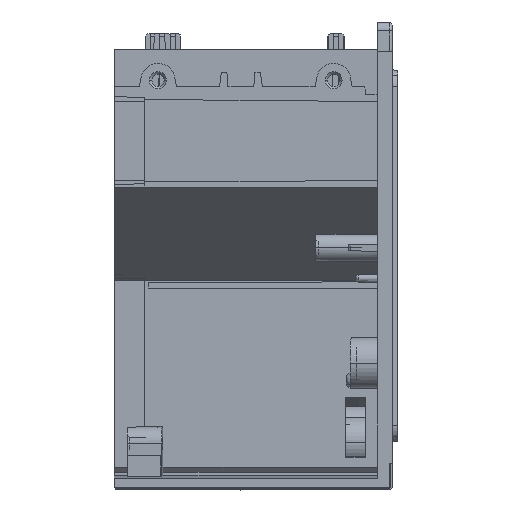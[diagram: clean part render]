
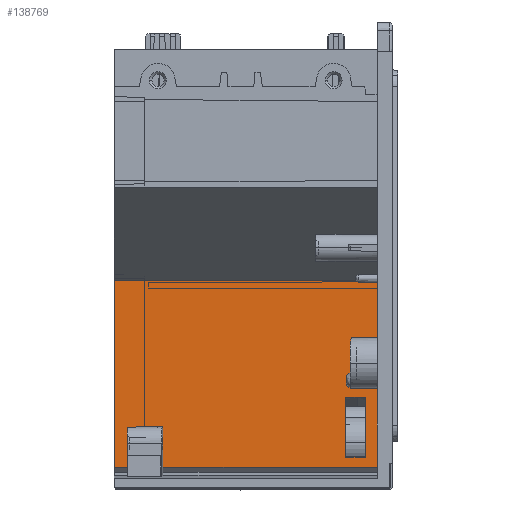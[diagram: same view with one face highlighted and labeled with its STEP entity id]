
A CAD part, left-side view. The second image highlights one B-rep face of the part: STEP entity #138769.
In plain terms, the highlighted planar face has unit normal (-1, 0, 0).
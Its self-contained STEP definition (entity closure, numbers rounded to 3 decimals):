
#38071=DIRECTION('',(0.,-1.,0.));
#38072=VECTOR('',#38071,4.);
#38073=CARTESIAN_POINT('',(-355.,-20.5,-41.26));
#38074=LINE('',#38073,#38072);
#38075=DIRECTION('',(0.,0.,1.));
#38076=VECTOR('',#38075,12.3);
#38077=CARTESIAN_POINT('',(-355.,-24.5,-41.26));
#38078=LINE('',#38077,#38076);
#38079=DIRECTION('',(0.,1.,0.));
#38080=VECTOR('',#38079,4.);
#38081=CARTESIAN_POINT('',(-355.,-24.5,-28.96));
#38082=LINE('',#38081,#38080);
#38083=DIRECTION('',(0.,0.,-1.));
#38084=VECTOR('',#38083,12.3);
#38085=CARTESIAN_POINT('',(-355.,-20.5,-28.96));
#38086=LINE('',#38085,#38084);
#38087=DIRECTION('',(0.,1.,0.));
#38088=VECTOR('',#38087,44.);
#38089=CARTESIAN_POINT('',(-355.,-27.,-43.326));
#38090=LINE('',#38089,#38088);
#38091=CARTESIAN_POINT('',(-355.001,17.,
-43.324));
#38092=CARTESIAN_POINT('',(-355.001,17.,
-42.394));
#38093=CARTESIAN_POINT('',(-355.,17.,
-40.535));
#38094=CARTESIAN_POINT('',(-354.999,17.,
-37.743));
#38095=CARTESIAN_POINT('',(-355.003,17.,
-35.882));
#38096=CARTESIAN_POINT('',(-355.003,17.,
-34.951));
#38098=DIRECTION('',(0.003,1.,-0.017));
#38099=VECTOR('',#38098,1.);
#38100=CARTESIAN_POINT('',(-355.003,17.,
-34.951));
#38101=LINE('',#38100,#38099);
#38102=DIRECTION('',(0.,0.,-1.));
#38103=VECTOR('',#38102,8.357);
#38104=CARTESIAN_POINT('',(-355.,18.,-34.969));
#38105=LINE('',#38104,#38103);
#38106=DIRECTION('',(0.,-1.,0.));
#38107=VECTOR('',#38106,9.);
#38108=CARTESIAN_POINT('',(-355.,27.,-43.326));
#38109=LINE('',#38108,#38107);
#38110=DIRECTION('',(0.,0.,1.));
#38111=VECTOR('',#38110,38.326);
#38112=CARTESIAN_POINT('',(-355.,27.,-43.326));
#38113=LINE('',#38112,#38111);
#38114=DIRECTION('',(0.,1.,0.));
#38115=VECTOR('',#38114,54.);
#38116=CARTESIAN_POINT('',(-355.,-27.,-5.));
#38117=LINE('',#38116,#38115);
#38118=DIRECTION('',(0.,0.,-1.));
#38119=VECTOR('',#38118,38.326);
#38120=CARTESIAN_POINT('',(-355.,-27.,-5.));
#38121=LINE('',#38120,#38119);
#66814=CARTESIAN_POINT('',(-355.,27.,-5.));
#66815=VERTEX_POINT('',#66814);
#66901=CARTESIAN_POINT('',(-355.,-27.,-5.));
#66903=VERTEX_POINT('',#66901);
#68863=CARTESIAN_POINT('',(-355.,-24.5,-28.96));
#68864=CARTESIAN_POINT('',(-355.,-20.5,-28.96));
#68865=VERTEX_POINT('',#68863);
#68866=VERTEX_POINT('',#68864);
#69908=CARTESIAN_POINT('',(-355.003,17.,
-34.951));
#69909=CARTESIAN_POINT('',(-355.,18.,-34.969));
#69910=VERTEX_POINT('',#69908);
#69911=VERTEX_POINT('',#69909);
#69994=CARTESIAN_POINT('',(-355.,-20.5,-41.26));
#69995=CARTESIAN_POINT('',(-355.,-24.5,-41.26));
#69996=VERTEX_POINT('',#69994);
#69997=VERTEX_POINT('',#69995);
#71178=CARTESIAN_POINT('',(-355.,18.,-43.326));
#71180=VERTEX_POINT('',#71178);
#71183=CARTESIAN_POINT('',(-355.,27.,-43.326));
#71184=VERTEX_POINT('',#71183);
#71197=CARTESIAN_POINT('',(-355.,-27.,-43.326));
#71198=VERTEX_POINT('',#71197);
#71205=CARTESIAN_POINT('',(-355.001,17.,
-43.324));
#71207=VERTEX_POINT('',#71205);
#138739=CARTESIAN_POINT('',(-355.,-32.5,-5.));
#138740=DIRECTION('',(1.,0.,0.));
#138741=DIRECTION('',(0.,0.,-1.));
#138742=AXIS2_PLACEMENT_3D('',#138739,#138740,#138741);
#138743=PLANE('',#138742);
#138745=ORIENTED_EDGE('',*,*,#138744,.T.);
#138746=ORIENTED_EDGE('',*,*,#138692,.T.);
#138748=ORIENTED_EDGE('',*,*,#138747,.T.);
#138750=ORIENTED_EDGE('',*,*,#138749,.T.);
#138752=ORIENTED_EDGE('',*,*,#138751,.F.);
#138753=ORIENTED_EDGE('',*,*,#96802,.T.);
#138755=ORIENTED_EDGE('',*,*,#138754,.F.);
#138756=ORIENTED_EDGE('',*,*,#116305,.T.);
#138757=EDGE_LOOP('',(#138745,#138746,#138748,#138750,#138752,#138753,#138755,
#138756));
#138758=FACE_OUTER_BOUND('',#138757,.F.);
#138760=ORIENTED_EDGE('',*,*,#138759,.T.);
#138762=ORIENTED_EDGE('',*,*,#138761,.T.);
#138764=ORIENTED_EDGE('',*,*,#138763,.T.);
#138766=ORIENTED_EDGE('',*,*,#138765,.T.);
#138767=EDGE_LOOP('',(#138760,#138762,#138764,#138766));
#138768=FACE_BOUND('',#138767,.F.);
#138769=ADVANCED_FACE('',(#138758,#138768),#138743,.F.);
#38097=B_SPLINE_CURVE_WITH_KNOTS('',3,(#38091,#38092,#38093,#38094,#38095,
#38096),.UNSPECIFIED.,.F.,.F.,(4,1,1,4),(0.,0.333,
0.667,1.),.UNSPECIFIED.);
#96802=EDGE_CURVE('',#71184,#66815,#38113,.T.);
#116305=EDGE_CURVE('',#66903,#71198,#38121,.T.);
#138692=EDGE_CURVE('',#71207,#69910,#38097,.T.);
#138744=EDGE_CURVE('',#71198,#71207,#38090,.T.);
#138747=EDGE_CURVE('',#69910,#69911,#38101,.T.);
#138749=EDGE_CURVE('',#69911,#71180,#38105,.T.);
#138751=EDGE_CURVE('',#71184,#71180,#38109,.T.);
#138754=EDGE_CURVE('',#66903,#66815,#38117,.T.);
#138759=EDGE_CURVE('',#69996,#69997,#38074,.T.);
#138761=EDGE_CURVE('',#69997,#68865,#38078,.T.);
#138763=EDGE_CURVE('',#68865,#68866,#38082,.T.);
#138765=EDGE_CURVE('',#68866,#69996,#38086,.T.);
